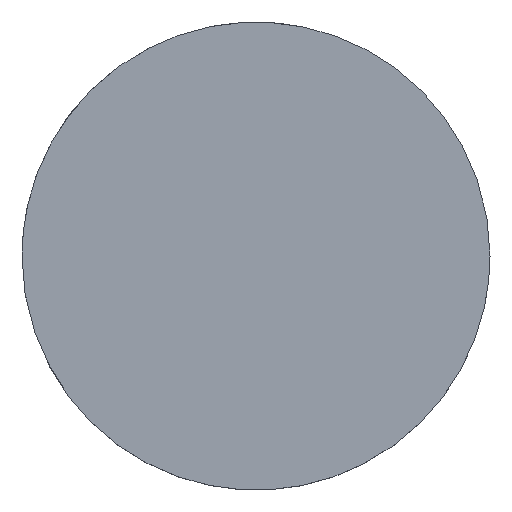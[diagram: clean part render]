
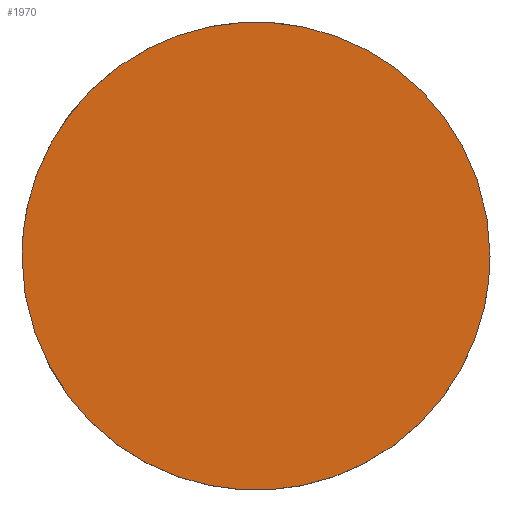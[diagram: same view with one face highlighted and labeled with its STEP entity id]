
A CAD part, top view. The second image highlights one B-rep face of the part: STEP entity #1970.
In plain terms, the highlighted planar face has unit normal (0, 0, 1).
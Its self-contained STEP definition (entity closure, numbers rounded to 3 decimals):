
#190 = CARTESIAN_POINT ('', (-6.25, 0., -7.61));
#200 = VERTEX_POINT ('', #190);
#260 = CARTESIAN_POINT ('', (6.25, 0., -7.61));
#270 = VERTEX_POINT ('', #260);
#280 = CARTESIAN_POINT ('', (6.25, 0., -7.61));
#290 = CARTESIAN_POINT ('', (6.25, 6.25, -7.61));
#300 = CARTESIAN_POINT ('', (0., 6.25, -7.61));
#310 = CARTESIAN_POINT ('', (-6.25, 6.25, -7.61));
#320 = CARTESIAN_POINT ('', (-6.25, 0., -7.61));
#330 = (
   BOUNDED_CURVE ()
   B_SPLINE_CURVE (2, (#280, #290, #300, #310, #320), .UNSPECIFIED., .F., .U.)
   B_SPLINE_CURVE_WITH_KNOTS ((3, 2, 3), (0., 1.571, 3.142), .UNSPECIFIED.)
   CURVE ()
   GEOMETRIC_REPRESENTATION_ITEM ()
   RATIONAL_B_SPLINE_CURVE ((1., 0.707, 1., 0.707, 1.))
   REPRESENTATION_ITEM ('')
);
#340 = EDGE_CURVE ('', #270, #200, #330, .T.);
#580 = CARTESIAN_POINT ('', (-6.25, 0., -7.61));
#590 = CARTESIAN_POINT ('', (-6.25, -6.25, -7.61));
#600 = CARTESIAN_POINT ('', (0., -6.25, -7.61));
#610 = CARTESIAN_POINT ('', (6.25, -6.25, -7.61));
#620 = CARTESIAN_POINT ('', (6.25, 0., -7.61));
#630 = (
   BOUNDED_CURVE ()
   B_SPLINE_CURVE (2, (#580, #590, #600, #610, #620), .UNSPECIFIED., .F., .U.)
   B_SPLINE_CURVE_WITH_KNOTS ((3, 2, 3), (3.142, 4.712, 6.283), .UNSPECIFIED.)
   CURVE ()
   GEOMETRIC_REPRESENTATION_ITEM ()
   RATIONAL_B_SPLINE_CURVE ((1., 0.707, 1., 0.707, 1.))
   REPRESENTATION_ITEM ('')
);
#640 = EDGE_CURVE ('', #200, #270, #630, .T.);
#1880 = ORIENTED_EDGE ('', *, *, #340, .T.);
#1890 = ORIENTED_EDGE ('', *, *, #640, .T.);
#1900 = EDGE_LOOP ('', (#1880, #1890));
#1910 = FACE_OUTER_BOUND ('', #1900, .T.);
#1920 = CARTESIAN_POINT ('', (0., 12.954, -7.61));
#1930 = DIRECTION ('', (0., 0., 1.));
#1940 = DIRECTION ('', (-0.707, -0.707, 0.));
#1950 = AXIS2_PLACEMENT_3D ('', #1920, #1930, #1940);
#1960 = PLANE ('', #1950);
#1970 = ADVANCED_FACE ('', (#1910), #1960, .T.);
